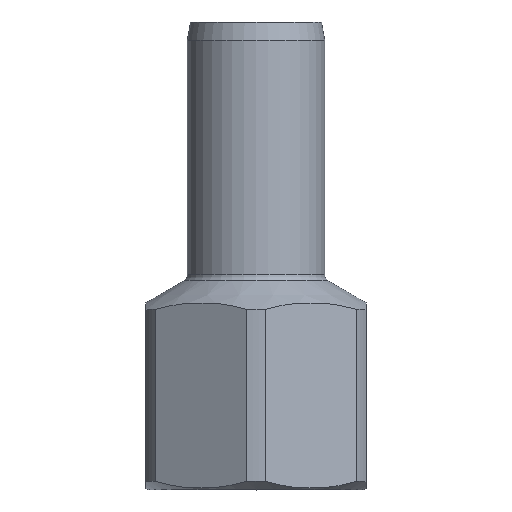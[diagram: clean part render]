
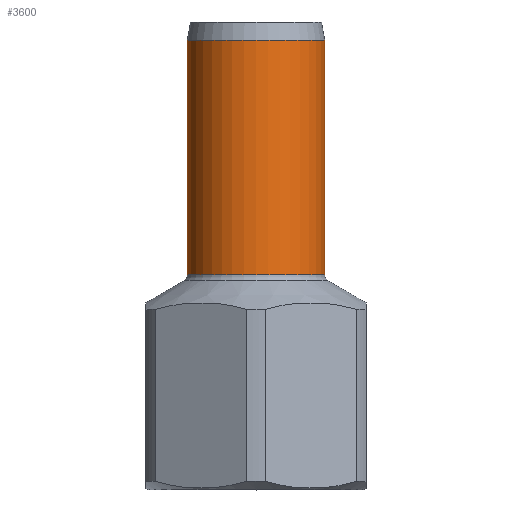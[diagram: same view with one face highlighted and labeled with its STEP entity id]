
A CAD part, top view. The second image highlights one B-rep face of the part: STEP entity #3600.
In plain terms, the highlighted cylindrical face has radius 7.5 mm (diameter 15 mm), a partial arc.
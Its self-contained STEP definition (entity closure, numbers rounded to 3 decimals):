
#3190=CARTESIAN_POINT('',(106.267,-121.063,0.));
#3200=DIRECTION('',(0.,1.,0.));
#3210=DIRECTION('',(1.,0.,0.));
#3220=AXIS2_PLACEMENT_3D('',#3190,#3200,#3210);
#3230=CYLINDRICAL_SURFACE('',#3220,7.5);
#3240=CARTESIAN_POINT('',(113.767,-121.063,0.));
#3250=DIRECTION('',(0.,1.,0.));
#3260=VECTOR('',#3250,1.);
#3270=LINE('',#3240,#3260);
#3280=CARTESIAN_POINT('',(113.767,-123.601,0.));
#3290=VERTEX_POINT('',#3280);
#3300=CARTESIAN_POINT('',(113.767,-98.063,0.));
#3310=VERTEX_POINT('',#3300);
#3320=EDGE_CURVE('',#3290,#3310,#3270,.T.);
#3330=ORIENTED_EDGE('',*,*,#3320,.T.);
#3340=CARTESIAN_POINT('',(106.267,-123.601,0.));
#3350=DIRECTION('',(0.,1.,0.));
#3360=DIRECTION('',(1.,0.,0.));
#3370=AXIS2_PLACEMENT_3D('',#3340,#3350,#3360);
#3380=CIRCLE('',#3370,7.5);
#3390=CARTESIAN_POINT('',(98.767,-123.601,0.));
#3400=VERTEX_POINT('',#3390);
#3410=EDGE_CURVE('',#3400,#3290,#3380,.T.);
#3420=ORIENTED_EDGE('',*,*,#3410,.T.);
#3430=CARTESIAN_POINT('',(98.767,-121.063,
0.));
#3440=DIRECTION('',(0.,1.,0.));
#3450=VECTOR('',#3440,1.);
#3460=LINE('',#3430,#3450);
#3470=CARTESIAN_POINT('',(98.767,-98.063,
0.));
#3480=VERTEX_POINT('',#3470);
#3490=EDGE_CURVE('',#3400,#3480,#3460,.T.);
#3500=ORIENTED_EDGE('',*,*,#3490,.F.);
#3510=CARTESIAN_POINT('',(106.267,-98.063,0.));
#3520=DIRECTION('',(0.,1.,0.));
#3530=DIRECTION('',(1.,0.,0.));
#3540=AXIS2_PLACEMENT_3D('',#3510,#3520,#3530);
#3550=CIRCLE('',#3540,7.5);
#3560=EDGE_CURVE('',#3480,#3310,#3550,.T.);
#3570=ORIENTED_EDGE('',*,*,#3560,.F.);
#3580=EDGE_LOOP('',(#3570,#3500,#3420,#3330));
#3590=FACE_OUTER_BOUND('',#3580,.T.);
#3600=ADVANCED_FACE('',(#3590),#3230,.T.);
